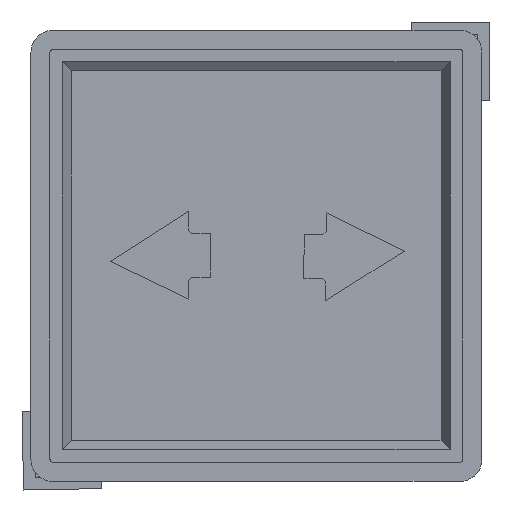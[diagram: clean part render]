
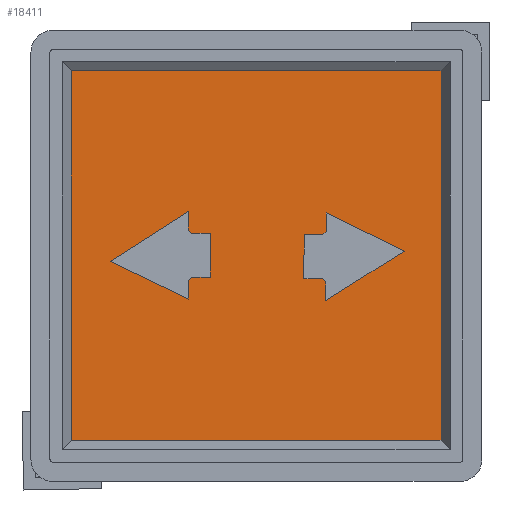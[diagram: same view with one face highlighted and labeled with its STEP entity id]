
A CAD part, front view. The second image highlights one B-rep face of the part: STEP entity #18411.
In plain terms, the highlighted planar face has unit normal (0, -1, 0) as drawn and (0, 0, 1) by its records, which use the part's own axes.
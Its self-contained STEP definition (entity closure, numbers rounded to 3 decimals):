
#964=FACE_BOUND('',#3431,.T.);
#965=FACE_BOUND('',#3432,.T.);
#1271=PLANE('',#19938);
#2295=FACE_OUTER_BOUND('',#3430,.T.);
#3430=EDGE_LOOP('',(#13938,#13939,#13940,#13941));
#3431=EDGE_LOOP('',(#13942));
#3432=EDGE_LOOP('',(#13943));
#4887=LINE('',#28597,#6658);
#4890=LINE('',#28603,#6661);
#4893=LINE('',#28609,#6664);
#4896=LINE('',#28613,#6667);
#6658=VECTOR('',#22725,10.);
#6661=VECTOR('',#22730,10.);
#6664=VECTOR('',#22735,10.);
#6667=VECTOR('',#22740,10.);
#8132=CIRCLE('',#19929,2.);
#8134=CIRCLE('',#19932,2.);
#8643=VERTEX_POINT('',#28579);
#8645=VERTEX_POINT('',#28585);
#8649=VERTEX_POINT('',#28594);
#8650=VERTEX_POINT('',#28596);
#8652=VERTEX_POINT('',#28602);
#8654=VERTEX_POINT('',#28608);
#10629=EDGE_CURVE('',#8643,#8643,#8132,.T.);
#10632=EDGE_CURVE('',#8645,#8645,#8134,.T.);
#10637=EDGE_CURVE('',#8650,#8649,#4887,.T.);
#10640=EDGE_CURVE('',#8652,#8650,#4890,.T.);
#10643=EDGE_CURVE('',#8654,#8652,#4893,.T.);
#10646=EDGE_CURVE('',#8649,#8654,#4896,.T.);
#13938=ORIENTED_EDGE('',*,*,#10646,.T.);
#13939=ORIENTED_EDGE('',*,*,#10643,.T.);
#13940=ORIENTED_EDGE('',*,*,#10640,.T.);
#13941=ORIENTED_EDGE('',*,*,#10637,.T.);
#13942=ORIENTED_EDGE('',*,*,#10629,.T.);
#13943=ORIENTED_EDGE('',*,*,#10632,.T.);
#18411=ADVANCED_FACE('',(#2295,#964,#965),#1271,.T.);
#19929=AXIS2_PLACEMENT_3D('',#28580,#22709,#22710);
#19932=AXIS2_PLACEMENT_3D('',#28586,#22716,#22717);
#19938=AXIS2_PLACEMENT_3D('',#28614,#22741,#22742);
#22709=DIRECTION('center_axis',(0.,0.,-1.));
#22710=DIRECTION('ref_axis',(1.,0.,0.));
#22716=DIRECTION('center_axis',(0.,0.,-1.));
#22717=DIRECTION('ref_axis',(1.,0.,0.));
#22725=DIRECTION('',(1.,0.,0.));
#22730=DIRECTION('',(0.,-1.,0.));
#22735=DIRECTION('',(-1.,0.,0.));
#22740=DIRECTION('',(0.,1.,0.));
#22741=DIRECTION('center_axis',(0.,0.,1.));
#22742=DIRECTION('ref_axis',(1.,0.,0.));
#28579=CARTESIAN_POINT('',(42.389,31.421,0.5));
#28580=CARTESIAN_POINT('Origin',(44.389,31.421,0.5));
#28585=CARTESIAN_POINT('',(17.306,31.421,0.5));
#28586=CARTESIAN_POINT('Origin',(19.306,31.421,0.5));
#28594=CARTESIAN_POINT('',(63.,0.,0.5));
#28596=CARTESIAN_POINT('',(0.,0.,0.5));
#28597=CARTESIAN_POINT('',(0.,0.,0.5));
#28602=CARTESIAN_POINT('',(0.,63.,0.5));
#28603=CARTESIAN_POINT('',(0.,63.,0.5));
#28608=CARTESIAN_POINT('',(63.,63.,0.5));
#28609=CARTESIAN_POINT('',(63.,63.,0.5));
#28613=CARTESIAN_POINT('',(63.,0.,0.5));
#28614=CARTESIAN_POINT('Origin',(31.5,31.5,0.5));
